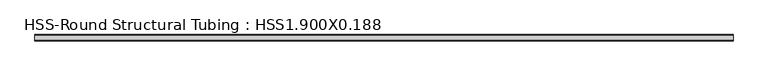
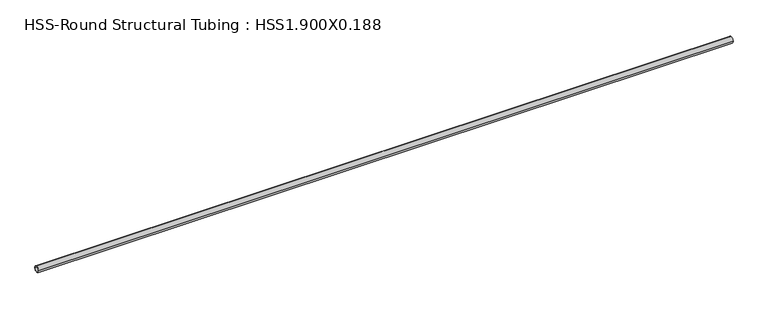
"""IFC4 building model written with IfcOpenShell, lengths in millimetres: member geometry, HSS-Round Structural Tubing : HSS1.900X0.188."""

from ifc_helpers import new_model, si_unit, point, frame, origin, origin_2d, place, context, project, spatial, circle_curve, trimmed, segment, composite_curve, outline, extrude, source, transform, mapped, element, save


def hss_round_structural_tubing_hss1_900x0_188_38155dc2(model_context):
    return source(origin(), model_context, "Body", "SweptSolid", [
        extrude(outline(composite_curve([segment(trimmed(circle_curve(origin_2d(), 24.13), [point((-24.13, 0.0))], [point((24.13, 0.0))], False, "CARTESIAN"), True, "CONTINUOUS"), segment(trimmed(circle_curve(origin_2d(), 24.13), [point((24.13, 0.0))], [point((-24.13, 0.0))], False, "CARTESIAN"), True, "CONTINUOUS")], self_intersect=False), holes=[composite_curve([segment(trimmed(circle_curve(origin_2d(), 19.7104), [point((19.7104, 0.0))], [point((-19.7104, 0.0))], True, "CARTESIAN"), True, "CONTINUOUS"), segment(trimmed(circle_curve(origin_2d(), 19.7104), [point((-19.7104, 0.0))], [point((19.7104, 0.0))], True, "CARTESIAN"), True, "CONTINUOUS")], self_intersect=False)]), frame((-2686.9909377, 0.0, 0.0), z_axis=(1.0, 0.0, 0.0), x_axis=(0.0, 1.0, 0.0)), (0.0, 0.0, 1.0), 5419.0802818),
    ])


if __name__ == "__main__":
    model = new_model("IFC4")
    model_context = context("Model", 3, world=origin())
    ifc_project = project(units=[si_unit("LENGTHUNIT", "METRE", prefix="MILLI")], contexts=[model_context])
    site = spatial("IfcSite", under=ifc_project)
    building = spatial("IfcBuilding", under=site)
    placement = place(None, origin())
    hss_round_structural_tubing_hss1_900x0_188_shape = hss_round_structural_tubing_hss1_900x0_188_38155dc2(model_context)
    element("IfcMember", 1, ObjectType="HSS-Round Structural Tubing : HSS1.900X0.188", at=placement, inside=building, context=model_context, shape_type="MappedRepresentation", body=[
        mapped(hss_round_structural_tubing_hss1_900x0_188_shape, transform((0.0, 0.0, 0.0), x_axis=(1.0, 0.0, 0.0), y_axis=(0.0, 1.0, 0.0), z_axis=(0.0, 0.0, 1.0))),
    ])
    save(model, "model.ifc")
